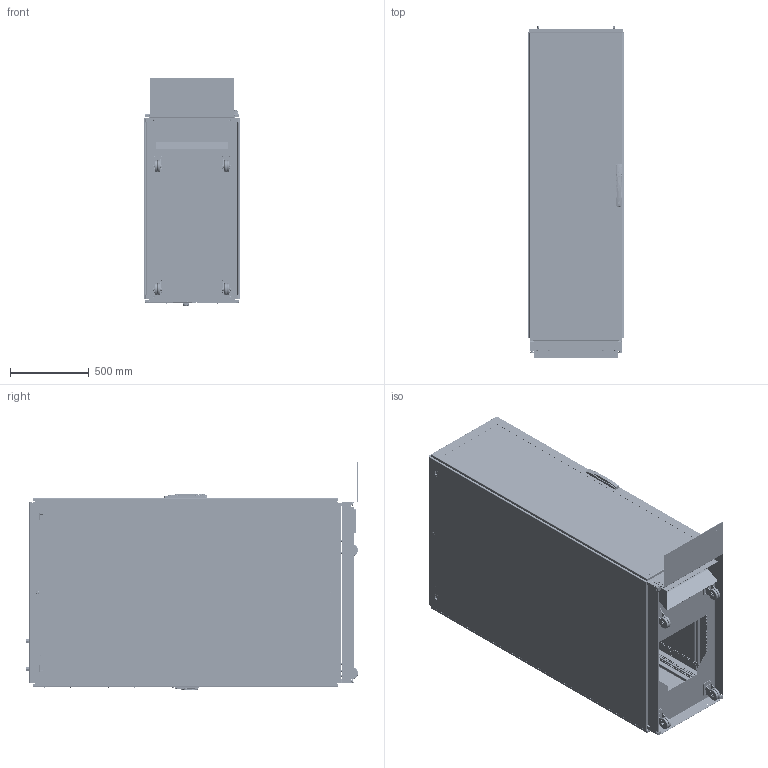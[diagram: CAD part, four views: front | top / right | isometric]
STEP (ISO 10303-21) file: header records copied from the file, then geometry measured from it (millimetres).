
FILE_DESCRIPTION (( 'STEP AP203' ), '1' );
FILE_NAME ('psfd20612b.STEP', '2019-11-05T20:55:33', ( '' ), ( '' ), 'SwSTEP 2.0', 'SolidWorks 2016', '' );
FILE_SCHEMA (( 'CONFIG_CONTROL_DESIGN' ));
Length unit declared in the file: millimetre
Products named in the file (129): 11458036; 11158140_11158140; 64201001; 60127093; 30127077; 99401329_99401329; 89056654_default; 87792979; 11158133_11581133; 60100041_60100041; 89056680; 11158474_11158474; 87932266; 27131001; 60127216_60127216; 11458172_11458172; 89107551_60127141; 51145001_Extended; 89056311; psfd20612b; 51223001; 60127372_60127372; 60127224_60127224; 87755569; 87931368_SLEEVE; 51140001; 87576035_87576035; 30197001; 11258014; 60127173_60127173; 60127208; 60127172_60127172; 22101006; 60127383_60127383; 87794725; 87793740_87793740; 22166001; 11158141_11158141; 87562939_87562939; 89057257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
Assembly tree (351 placements, depth 5):
  psfd20612b
    87789875_87789875
      60127013  x8
      30127014  x4
      30127077  x4
      87780929  x4
      87786841_87786841  x6
    87795190
      89056680
        89056681
        60127101_60127101  x2
        87920638_87920638  x6
        60100041_60100041  x2
          87931527_87931527
          87931368_SLEEVE
        60127172_60127172  x3
      20127259_20127259
        89091664_875472289  x4
        89101845  x4
        89107551_60127141  x2
        60127383_60127383  x2
      87553317
      87576034_87576034  x4
      87562939_87562939  x6
      60127224_60127224
        60127106_60127106
        60127175_60127175  x2
        60127216_60127216  x3
          60127140_60127140
          60127138_60127138
          87576035_87576035
        60127139_60127139  x4
        11158132_THIKNESS .155 FIXED  x8
        11158133_11581133  x3
      60127277_60127277  x3
        51232001_51232001
        60127173_60127173
      60127430
        11458037
        11458036
        51140001
        11358764
        11258013
        11258012
        11358763
        51231001
        11258014
        46139001_46139001  x2
        51145001_Extended
        11358765
        46120001_Compressed
        51223001
        51138001_Compressed
        60127093
        51137001
        60127208
        60127212
        60127207
      87792981  x2
      87792979  x2
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Bounding box: 610.88 x 2105.91 x 1445.72 mm (x, y, z)
Volume: 27761981.7 mm3; surface area: 28201935.7 mm2
Topology: 454 solids, 483 shells, 31419 faces, 83919 edges, 53938 vertices
Faces by surface type: plane 17525, cylinder 9462, torus 1885, cone 1361, bspline 1146, sphere 40
Entity records: 404163 total; most frequent: CARTESIAN_POINT 108988, ORIENTED_EDGE 57636, DIRECTION 55932, EDGE_CURVE 28836, AXIS2_PLACEMENT_3D 19251, VERTEX_POINT 18531, VECTOR 17430, LINE 17430
